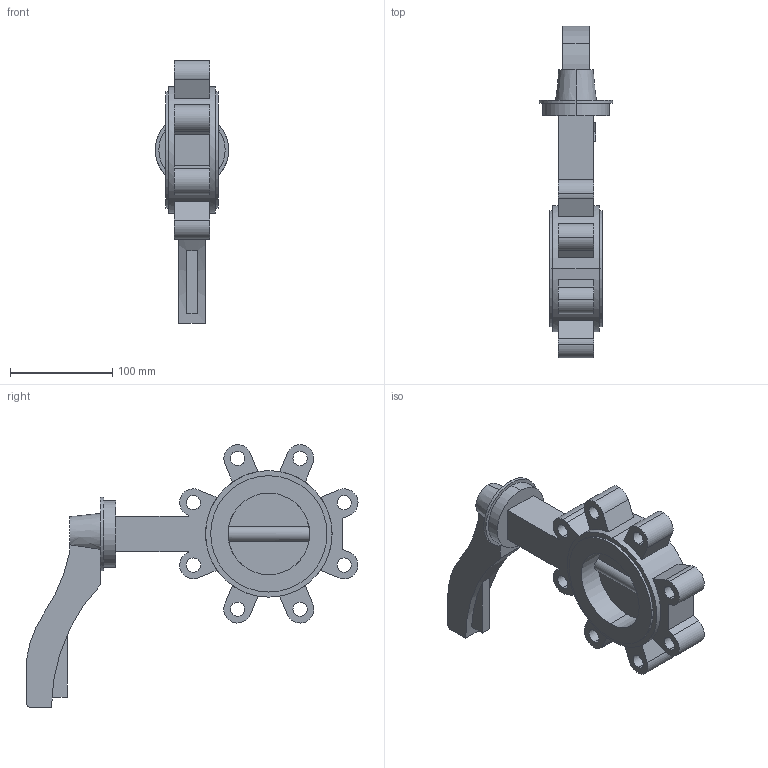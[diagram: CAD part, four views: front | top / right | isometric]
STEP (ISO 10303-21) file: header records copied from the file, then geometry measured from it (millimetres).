
FILE_DESCRIPTION (( 'STEP AP214' ), '1' );
FILE_NAME ('E124_080.STEP', '2021-05-28T12:31:54', ( '' ), ( '' ), 'SwSTEP 2.0', 'SolidWorks 2020', '' );
FILE_SCHEMA (( 'AUTOMOTIVE_DESIGN' ));
Length unit declared in the file: millimetre
Products named in the file (1): E124_080
Bounding box: 72 x 325.41 x 257.41 mm (x, y, z)
Volume: 892156.9 mm3; surface area: 134483.7 mm2
Topology: 1 solids, 1 shells, 117 faces, 301 edges, 200 vertices
Faces by surface type: plane 67, cylinder 48, cone 2
Entity records: 5000 total; most frequent: CARTESIAN_POINT 749, DIRECTION 647, ORIENTED_EDGE 602, EDGE_CURVE 301, AXIS2_PLACEMENT_3D 234, VERTEX_POINT 200, VECTOR 179, LINE 179
